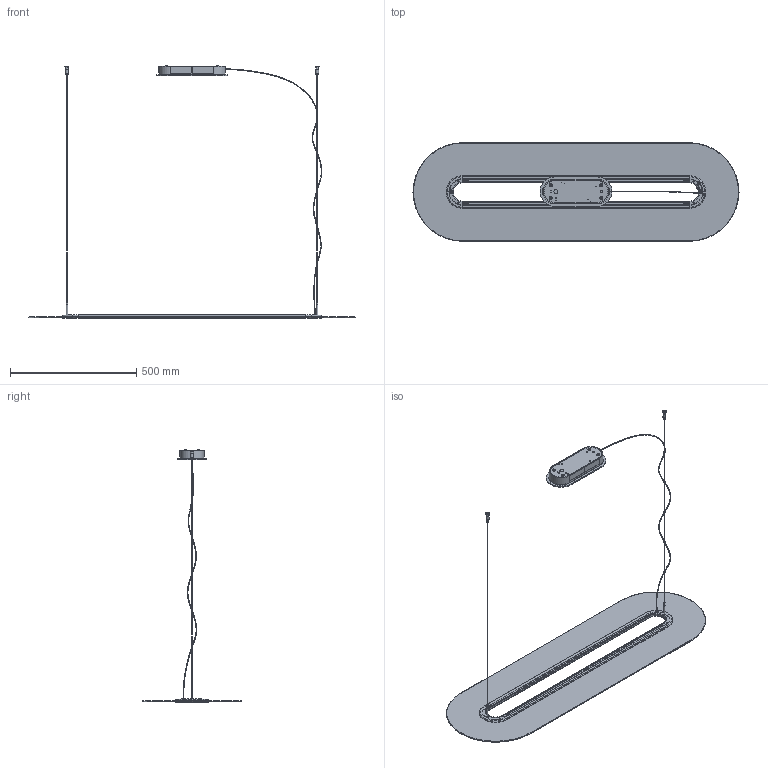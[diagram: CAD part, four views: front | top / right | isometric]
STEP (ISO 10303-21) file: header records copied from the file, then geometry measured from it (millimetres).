
FILE_DESCRIPTION( ( 'Unknown' ), '1' );
FILE_NAME( 'U:/LineaLight Articoli/PRODUZIONE/ARTICOLI/O-LINE/8035-8036-8037-8038/8035-8036/8035.stp', 'Unknown', ( 'Unknown' ), ( 'Unknown' ), 'PSStep 17.0.49', 'Unknown', ' ' );
FILE_SCHEMA( ( 'AUTOMOTIVE_DESIGN { 1 0 10303 214 1 1 1 1 }' ) );
Length unit declared in the file: millimetre
Products named in the file (26): 153000172999; 153000172064_2; 153000172064_1; G1367-3-oa0; G1367-3 (01); G1367-3 (02); G1367-3-oa1; Assem1; 062000094731; 155000384064; 155000385064; 155000387064; 156000095064; 156000096064; 210000055013; 067000037359; 060000062000; 155000383064; O2088-9; 155000250064; 155000413064; O1706-9; G1363-BR; Filo 1-oa2; Filo 2-oa3; Filo 3-oa4
Assembly tree (40 placements, depth 3):
  Assem1
    062000094731
    155000384064
    155000385064  x2
    155000387064
    156000095064  x2
    156000096064  x2
    210000055013  x4
    067000037359
    060000062000
    155000383064  x2
    O2088-9  x5
    155000250064  x2
    155000413064
    O1706-9
    G1363-BR  x2
    Filo 1-oa2
    Filo 2-oa3
    Filo 3-oa4
    153000172999
      153000172064_2
      153000172064_1
    G1367-3-oa0
      G1367-3 (01)
      G1367-3 (02)
    G1367-3-oa1
      G1367-3 (01)
      G1367-3 (02)
Bounding box: 1290 x 390 x 1000.39 mm (x, y, z)
Volume: 2255180.2 mm3; surface area: 1292463.9 mm2
Topology: 37 solids, 37 shells, 1040 faces, 2433 edges, 1499 vertices
Faces by surface type: plane 487, cylinder 344, torus 76, cone 60, bspline 49, sphere 24
Full cylindrical faces by diameter (mm): 0.8 x2, 1.5 x2, 2 x2, 2.459 x17, 2.5 x2, 2.599 x1, 2.7 x5, 3 x9, 3.242 x6, 3.5 x6, 4 x4, 4.134 x4, 4.5 x2, 5 x5, 5.75 x2, 5.9 x1, 6 x4, 6.5 x1, 6.8 x1, 6.917 x1, 7 x2, 8 x3, 9 x1, 9.153 x2, 10 x2, 12 x5, 15 x1, 16 x2
Entity records: 20425 total; most frequent: CARTESIAN_POINT 4148, DIRECTION 2582, ORIENTED_EDGE 2110, EDGE_CURVE 1055, AXIS2_PLACEMENT_3D 1004, VERTEX_POINT 746, EDGE_LOOP 728, FACE_OUTER_BOUND 591
